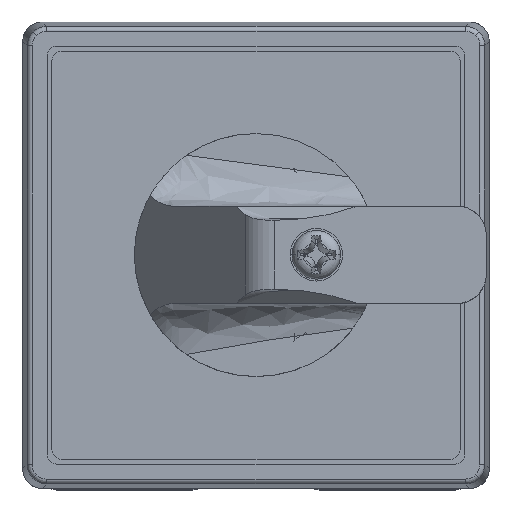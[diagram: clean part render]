
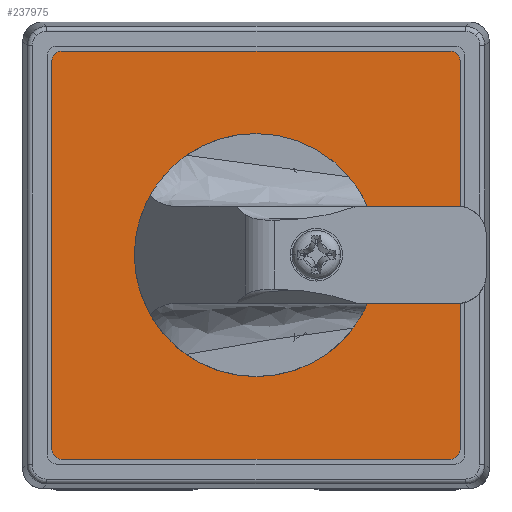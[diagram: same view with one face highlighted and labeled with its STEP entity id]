
A CAD part, top view. The second image highlights one B-rep face of the part: STEP entity #237975.
In plain terms, the highlighted planar face has unit normal (0, 0, 1).
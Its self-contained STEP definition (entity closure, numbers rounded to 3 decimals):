
#2195 = CARTESIAN_POINT ( 'NONE',  ( -14.639, 14.889, -59.982 ) ) ;
#2339 = ORIENTED_EDGE ( 'NONE', *, *, #109240, .T. ) ;
#6748 = CARTESIAN_POINT ( 'NONE',  ( -13.639, 14.889, -59.982 ) ) ;
#8193 = CARTESIAN_POINT ( 'NONE',  ( -14.639, -25.111, -59.982 ) ) ;
#14146 = DIRECTION ( 'NONE',  ( 0., 0., 1. ) ) ;
#16500 = VERTEX_POINT ( 'NONE', #43922 ) ;
#17327 = VECTOR ( 'NONE', #264343, 1000. ) ;
#17550 = CIRCLE ( 'NONE', #233214, 10.35 ) ;
#18291 = AXIS2_PLACEMENT_3D ( 'NONE', #73358, #52821, #243322 ) ;
#23483 = ORIENTED_EDGE ( 'NONE', *, *, #32868, .T. ) ;
#28190 = DIRECTION ( 'NONE',  ( 0., 0., 1. ) ) ;
#31742 = DIRECTION ( 'NONE',  ( 0., 0., 1. ) ) ;
#32093 = AXIS2_PLACEMENT_3D ( 'NONE', #6748, #28190, #199124 ) ;
#32868 = EDGE_CURVE ( 'NONE', #125535, #193457, #158749, .T. ) ;
#33171 = CARTESIAN_POINT ( 'NONE',  ( 26.361, 14.889, -59.982 ) ) ;
#37334 = EDGE_CURVE ( 'NONE', #238790, #16500, #151434, .T. ) ;
#43922 = CARTESIAN_POINT ( 'NONE',  ( 16.711, -5.111, -59.982 ) ) ;
#46472 = ORIENTED_EDGE ( 'NONE', *, *, #254531, .T. ) ;
#52705 = DIRECTION ( 'NONE',  ( 1., 0., 0. ) ) ;
#52821 = DIRECTION ( 'NONE',  ( 0., 0., 1. ) ) ;
#53607 = DIRECTION ( 'NONE',  ( 0., 0., 1. ) ) ;
#56833 = DIRECTION ( 'NONE',  ( 1., 0., 0. ) ) ;
#58644 = FACE_OUTER_BOUND ( 'NONE', #198577, .T. ) ;
#58720 = AXIS2_PLACEMENT_3D ( 'NONE', #177856, #200116, #114675 ) ;
#61198 = CARTESIAN_POINT ( 'NONE',  ( -3.989, -5.111, -59.982 ) ) ;
#73358 = CARTESIAN_POINT ( 'NONE',  ( -13.639, -25.111, -59.982 ) ) ;
#75300 = CARTESIAN_POINT ( 'NONE',  ( 26.361, -26.111, -59.982 ) ) ;
#75413 = DIRECTION ( 'NONE',  ( -1., 0., 0. ) ) ;
#81792 = EDGE_CURVE ( 'NONE', #259366, #205359, #107130, .T. ) ;
#82088 = DIRECTION ( 'NONE',  ( 0., 0., 1. ) ) ;
#91753 = VERTEX_POINT ( 'NONE', #265430 ) ;
#103489 = DIRECTION ( 'NONE',  ( -1., 0., 0. ) ) ;
#107130 = CIRCLE ( 'NONE', #248329, 1. ) ;
#109240 = EDGE_CURVE ( 'NONE', #193457, #137385, #269454, .T. ) ;
#113336 = CARTESIAN_POINT ( 'NONE',  ( -13.639, 15.889, -59.982 ) ) ;
#114675 = DIRECTION ( 'NONE',  ( 1., 0., 0. ) ) ;
#115504 = ORIENTED_EDGE ( 'NONE', *, *, #268620, .T. ) ;
#116927 = AXIS2_PLACEMENT_3D ( 'NONE', #33171, #53607, #52705 ) ;
#117804 = CARTESIAN_POINT ( 'NONE',  ( 27.361, -25.111, -59.982 ) ) ;
#120638 = LINE ( 'NONE', #202719, #190547 ) ;
#122846 = AXIS2_PLACEMENT_3D ( 'NONE', #204653, #14146, #56833 ) ;
#123395 = EDGE_CURVE ( 'NONE', #151794, #125535, #120638, .T. ) ;
#124109 = CARTESIAN_POINT ( 'NONE',  ( 26.361, 15.889, -59.982 ) ) ;
#125535 = VERTEX_POINT ( 'NONE', #113336 ) ;
#126070 = CIRCLE ( 'NONE', #18291, 1. ) ;
#135619 = EDGE_LOOP ( 'NONE', ( #236269, #256637 ) ) ;
#137385 = VERTEX_POINT ( 'NONE', #8193 ) ;
#143621 = EDGE_CURVE ( 'NONE', #252093, #259366, #246456, .T. ) ;
#151434 = CIRCLE ( 'NONE', #122846, 10.35 ) ;
#151794 = VERTEX_POINT ( 'NONE', #124109 ) ;
#152298 = ORIENTED_EDGE ( 'NONE', *, *, #123395, .T. ) ;
#157647 = CARTESIAN_POINT ( 'NONE',  ( 27.361, 14.889, -59.982 ) ) ;
#158289 = ORIENTED_EDGE ( 'NONE', *, *, #143621, .T. ) ;
#158749 = CIRCLE ( 'NONE', #32093, 1. ) ;
#165782 = ORIENTED_EDGE ( 'NONE', *, *, #81792, .T. ) ;
#177856 = CARTESIAN_POINT ( 'NONE',  ( 26.361, 14.889, -59.982 ) ) ;
#179715 = VECTOR ( 'NONE', #229864, 1000. ) ;
#183344 = VECTOR ( 'NONE', #202236, 1000. ) ;
#190547 = VECTOR ( 'NONE', #75413, 1000. ) ;
#193457 = VERTEX_POINT ( 'NONE', #211080 ) ;
#198284 = PLANE ( 'NONE',  #58720 ) ;
#198577 = EDGE_LOOP ( 'NONE', ( #115504, #152298, #23483, #2339, #46472, #158289, #165782, #270525 ) ) ;
#199124 = DIRECTION ( 'NONE',  ( -1., 0., 0. ) ) ;
#200116 = DIRECTION ( 'NONE',  ( 0., 0., 1. ) ) ;
#202236 = DIRECTION ( 'NONE',  ( 1., 0., 0. ) ) ;
#202686 = CARTESIAN_POINT ( 'NONE',  ( 6.361, -5.111, -59.982 ) ) ;
#202719 = CARTESIAN_POINT ( 'NONE',  ( -13.639, 15.889, -59.982 ) ) ;
#203606 = DIRECTION ( 'NONE',  ( 1., 0., 0. ) ) ;
#204653 = CARTESIAN_POINT ( 'NONE',  ( 6.361, -5.111, -59.982 ) ) ;
#205359 = VERTEX_POINT ( 'NONE', #117804 ) ;
#209034 = EDGE_CURVE ( 'NONE', #205359, #91753, #223415, .T. ) ;
#209381 = CARTESIAN_POINT ( 'NONE',  ( 26.361, -25.111, -59.982 ) ) ;
#211080 = CARTESIAN_POINT ( 'NONE',  ( -14.639, 14.889, -59.982 ) ) ;
#219383 = CIRCLE ( 'NONE', #116927, 1. ) ;
#222710 = CARTESIAN_POINT ( 'NONE',  ( -13.639, -26.111, -59.982 ) ) ;
#223415 = LINE ( 'NONE', #157647, #17327 ) ;
#229022 = EDGE_CURVE ( 'NONE', #16500, #238790, #17550, .T. ) ;
#229864 = DIRECTION ( 'NONE',  ( 0., -1., 0. ) ) ;
#233214 = AXIS2_PLACEMENT_3D ( 'NONE', #202686, #31742, #203606 ) ;
#236269 = ORIENTED_EDGE ( 'NONE', *, *, #37334, .F. ) ;
#237975 = ADVANCED_FACE ( 'NONE', ( #58644, #258011 ), #198284, .T. ) ;
#238790 = VERTEX_POINT ( 'NONE', #61198 ) ;
#243322 = DIRECTION ( 'NONE',  ( -1., 0., 0. ) ) ;
#246456 = LINE ( 'NONE', #222710, #183344 ) ;
#248329 = AXIS2_PLACEMENT_3D ( 'NONE', #209381, #82088, #103489 ) ;
#252093 = VERTEX_POINT ( 'NONE', #255876 ) ;
#254531 = EDGE_CURVE ( 'NONE', #137385, #252093, #126070, .T. ) ;
#255876 = CARTESIAN_POINT ( 'NONE',  ( -13.639, -26.111, -59.982 ) ) ;
#256637 = ORIENTED_EDGE ( 'NONE', *, *, #229022, .F. ) ;
#258011 = FACE_BOUND ( 'NONE', #135619, .T. ) ;
#259366 = VERTEX_POINT ( 'NONE', #75300 ) ;
#264343 = DIRECTION ( 'NONE',  ( 0., 1., 0. ) ) ;
#265430 = CARTESIAN_POINT ( 'NONE',  ( 27.361, 14.889, -59.982 ) ) ;
#268620 = EDGE_CURVE ( 'NONE', #91753, #151794, #219383, .T. ) ;
#269454 = LINE ( 'NONE', #2195, #179715 ) ;
#270525 = ORIENTED_EDGE ( 'NONE', *, *, #209034, .T. ) ;
